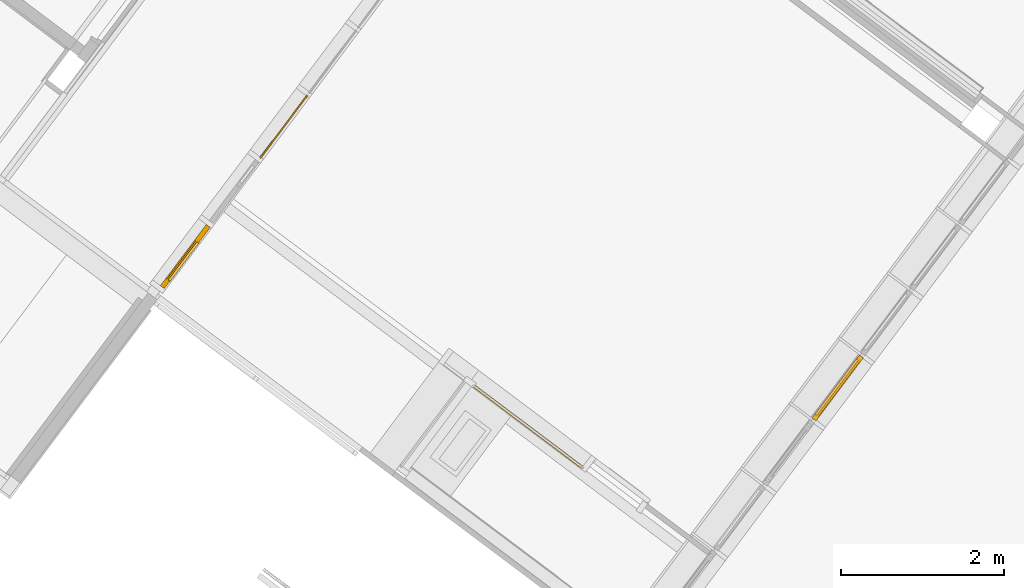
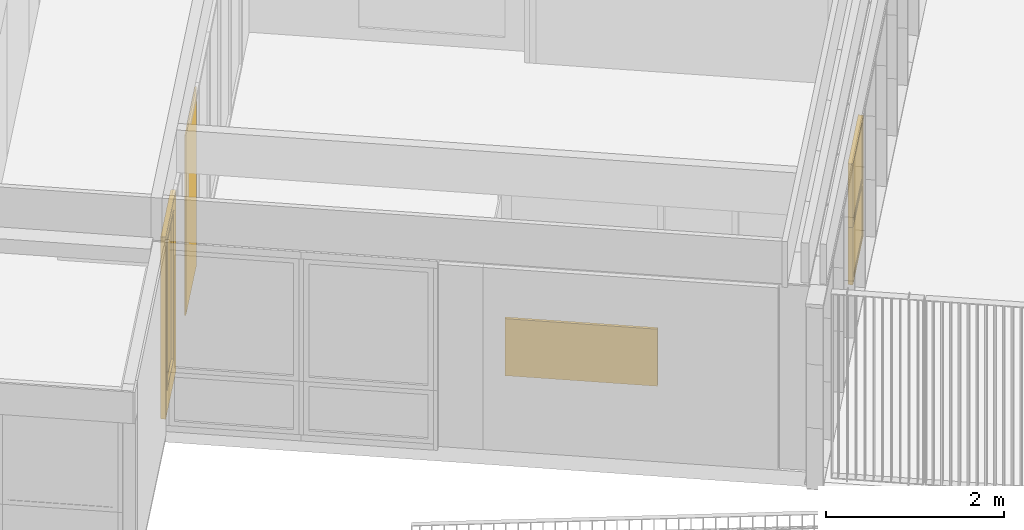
# One storey, part 150 of 243: 3 windows, 1 curtain wall, 1 door, 3 elements without a shape of their own.
"""IFC2X3 building model written with IfcOpenShell, lengths in metres."""

from ifc_helpers import new_model, entity, si_unit, converted_unit, derived_unit, direction, frame, frame_2d, origin, origin_2d_with_axis, place, context, subcontext, project, spatial, rectangle, extrude, faceted_brep, source, transform, mapped, material, material_list, layer, layer_set, layer_usage, type_object, type_shapes, element, aggregate, save


model = new_model("IFC2X3")

# Units and contexts
model_context = context("Model", 3, precision=1e-05, world=origin(), true_north=direction((6.123031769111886e-17, 1.0)))
body_context = subcontext(model_context, "Body", "Model", "MODEL_VIEW")
ifc_project = project(units=[si_unit("LENGTHUNIT", "METRE"), si_unit("AREAUNIT", "SQUARE_METRE"), si_unit("VOLUMEUNIT", "CUBIC_METRE"), converted_unit("PLANEANGLEUNIT", "DEGREE", entity("IfcRatioMeasure", 0.017453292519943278), si_unit("PLANEANGLEUNIT", "RADIAN"), dimensions=[0, 0, 0, 0, 0, 0, 0]), si_unit("MASSUNIT", "GRAM", prefix="KILO"), derived_unit("MASSDENSITYUNIT", [(si_unit("MASSUNIT", "GRAM", prefix="KILO"), 1), (si_unit("LENGTHUNIT", "METRE"), -3)]), derived_unit("IONCONCENTRATIONUNIT", [(si_unit("MASSUNIT", "GRAM", prefix="KILO"), 1), (si_unit("LENGTHUNIT", "METRE"), -3)]), derived_unit("MOMENTOFINERTIAUNIT", [(si_unit("LENGTHUNIT", "METRE"), 4)]), si_unit("TIMEUNIT", "SECOND"), si_unit("FREQUENCYUNIT", "HERTZ"), si_unit("THERMODYNAMICTEMPERATUREUNIT", "DEGREE_CELSIUS"), derived_unit("THERMALTRANSMITTANCEUNIT", [(si_unit("MASSUNIT", "GRAM", prefix="KILO"), 1), (si_unit("THERMODYNAMICTEMPERATUREUNIT", "KELVIN"), -1), (si_unit("TIMEUNIT", "SECOND"), -3)]), derived_unit("THERMALCONDUCTANCEUNIT", [(si_unit("MASSUNIT", "GRAM", prefix="KILO"), 1), (si_unit("THERMODYNAMICTEMPERATUREUNIT", "KELVIN"), -1), (si_unit("TIMEUNIT", "SECOND"), -3), (si_unit("LENGTHUNIT", "METRE"), 1)]), derived_unit("VOLUMETRICFLOWRATEUNIT", [(si_unit("LENGTHUNIT", "METRE"), 3), (si_unit("TIMEUNIT", "SECOND"), -1)]), derived_unit("MASSFLOWRATEUNIT", [(si_unit("MASSUNIT", "GRAM", prefix="KILO"), 1), (si_unit("TIMEUNIT", "SECOND"), -1)]), derived_unit("ROTATIONALFREQUENCYUNIT", [(si_unit("TIMEUNIT", "SECOND"), -1)]), si_unit("ELECTRICCURRENTUNIT", "AMPERE"), si_unit("ELECTRICVOLTAGEUNIT", "VOLT"), si_unit("POWERUNIT", "WATT"), si_unit("FORCEUNIT", "NEWTON", prefix="KILO"), si_unit("ILLUMINANCEUNIT", "LUX"), si_unit("LUMINOUSFLUXUNIT", "LUMEN"), si_unit("LUMINOUSINTENSITYUNIT", "CANDELA"), derived_unit("USERDEFINED", [(si_unit("MASSUNIT", "GRAM", prefix="KILO"), -1), (si_unit("LENGTHUNIT", "METRE"), -2), (si_unit("TIMEUNIT", "SECOND"), 3), (si_unit("LUMINOUSFLUXUNIT", "LUMEN"), 1)]), derived_unit("USERDEFINED", [(si_unit("MASSUNIT", "GRAM", prefix="KILO"), 1), (si_unit("TIMEUNIT", "SECOND"), -3), (si_unit("LENGTHUNIT", "METRE"), 3), (si_unit("ELECTRICCURRENTUNIT", "AMPERE"), -2)]), derived_unit("SOUNDPOWERUNIT", [(si_unit("MASSUNIT", "GRAM", prefix="KILO"), 1), (si_unit("TIMEUNIT", "SECOND"), -3), (si_unit("LENGTHUNIT", "METRE"), 2)]), derived_unit("SOUNDPRESSUREUNIT", [(si_unit("MASSUNIT", "GRAM", prefix="KILO"), 1), (si_unit("LENGTHUNIT", "METRE"), -1), (si_unit("TIMEUNIT", "SECOND"), -2)]), derived_unit("LINEARVELOCITYUNIT", [(si_unit("LENGTHUNIT", "METRE"), 1), (si_unit("TIMEUNIT", "SECOND"), -1)]), si_unit("PRESSUREUNIT", "PASCAL"), derived_unit("USERDEFINED", [(si_unit("MASSUNIT", "GRAM", prefix="KILO"), 1), (si_unit("LENGTHUNIT", "METRE"), -2), (si_unit("TIMEUNIT", "SECOND"), -2)]), derived_unit("LINEARFORCEUNIT", [(si_unit("MASSUNIT", "GRAM", prefix="KILO"), 1), (si_unit("TIMEUNIT", "SECOND"), -2)]), derived_unit("PLANARFORCEUNIT", [(si_unit("MASSUNIT", "GRAM", prefix="KILO"), 1), (si_unit("LENGTHUNIT", "METRE"), -1), (si_unit("TIMEUNIT", "SECOND"), -2)]), derived_unit("SPECIFICHEATCAPACITYUNIT", [(si_unit("THERMODYNAMICTEMPERATUREUNIT", "KELVIN"), -1), (si_unit("LENGTHUNIT", "METRE"), 2), (si_unit("TIMEUNIT", "SECOND"), -2)]), derived_unit("HEATINGVALUEUNIT", [(si_unit("LENGTHUNIT", "METRE"), 2), (si_unit("TIMEUNIT", "SECOND"), -2)]), derived_unit("VAPORPERMEABILITYUNIT", [(si_unit("LENGTHUNIT", "METRE"), -1), (si_unit("TIMEUNIT", "SECOND"), 1)]), derived_unit("DYNAMICVISCOSITYUNIT", [(si_unit("MASSUNIT", "GRAM", prefix="KILO"), 1), (si_unit("TIMEUNIT", "SECOND"), -1), (si_unit("LENGTHUNIT", "METRE"), -1)]), derived_unit("THERMALEXPANSIONCOEFFICIENTUNIT", [(si_unit("THERMODYNAMICTEMPERATUREUNIT", "KELVIN"), -1)]), derived_unit("MODULUSOFELASTICITYUNIT", [(si_unit("MASSUNIT", "GRAM", prefix="KILO"), 1), (si_unit("LENGTHUNIT", "METRE"), -1), (si_unit("TIMEUNIT", "SECOND"), -2)]), derived_unit("ISOTHERMALMOISTURECAPACITYUNIT", [(si_unit("LENGTHUNIT", "METRE"), 3), (si_unit("MASSUNIT", "GRAM", prefix="KILO"), -1)]), derived_unit("MOISTUREDIFFUSIVITYUNIT", [(si_unit("TIMEUNIT", "SECOND"), -1), (si_unit("LENGTHUNIT", "METRE"), 2)])], contexts=[model_context])

# Site, building, storey
site_placement = place(None, frame((0.0, 0.0, 235.0), z_axis=(0.0, 0.0, 1.0), x_axis=(-0.7996477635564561, 0.6004693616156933, 0.0)))
site = spatial("IfcSite", under=ifc_project, at=site_placement, Name="Default", CompositionType="ELEMENT")
building_placement = place(site_placement, origin())
building = spatial("IfcBuilding", under=site, at=building_placement, CompositionType="ELEMENT")
storey_placement = place(building_placement, origin())
storey = spatial("IfcBuildingStorey", under=building, at=storey_placement, Name="P0- Escola", CompositionType="ELEMENT", Elevation=0.0)

# Curtain wall, window, door
curtain_wall_type_1 = type_object("IfcCurtainWallType", Name="Muro cortina:MC- INT- a3", PredefinedType="NOTDEFINED")
curtain_wall_1_placement = place(storey_placement, origin())
curtain_wall_1 = element("IfcCurtainWall", 1, at=curtain_wall_1_placement, inside=storey, type_object=curtain_wall_type_1, Name="Muro cortina:MC- INT- a3", ObjectType="Muro cortina:MC- INT- a3")
ifc_material_1 = material(Name="_Vidre")
window_style_1 = type_object("IfcWindowStyle", Name="MC- Fusta- vidre fix:MC- Fusta- vidre fix", ConstructionType="NOTDEFINED", OperationType="NOTDEFINED", ParameterTakesPrecedence=False, Sizeable=False, material=ifc_material_1)
shared_shape_1 = source(origin(), body_context, "Body", "SweptSolid", [
    extrude(rectangle(XDim=0.015999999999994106, YDim=0.9699999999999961, at=origin_2d_with_axis()), frame((0.0, 0.0, 0.0), z_axis=(0.0, 0.0, 1.0), x_axis=(0.0, -1.0, 0.0)), (0.0, 0.0, 1.0), 2.475),
])
type_shapes(window_style_1, [shared_shape_1])
window_1_placement = place(curtain_wall_1_placement, frame((13.279147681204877, -20.970191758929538, 0.045000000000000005), z_axis=(0.0, 0.0, 1.0), x_axis=(0.0, -1.0, 0.0)))
window_1 = element("IfcWindow", 2, at=window_1_placement, type_object=window_style_1, material=ifc_material_1, Name="MC- Fusta- vidre fix:MC- Fusta- vidre fix", ObjectType="MC- Fusta- vidre fix:MC- Fusta- vidre fix", OverallHeight=2.475, OverallWidth=0.9699999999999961, context=body_context, shape_type="MappedRepresentation", body=[
    mapped(shared_shape_1, transform((0.0, 0.0, 0.0), scale=1.0)),
])
ifc_material_2 = material(Name="_Fusta massisa- T1")
ifc_material_list_1 = material_list([ifc_material_2, ifc_material_1])
door_style = type_object("IfcDoorStyle", Name="MC- Fusta- conjunt porta:MC- Fusta- conjunt Porta aules", ConstructionType="NOTDEFINED", OperationType="NOTDEFINED", ParameterTakesPrecedence=False, Sizeable=False, material=ifc_material_list_1)
shared_shape_2 = source(origin(), body_context, "Body", "Brep", [
    faceted_brep([(0.24500000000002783, -0.024999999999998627, 2.3799999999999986), (0.24500000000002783, -0.024999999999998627, 0.3299999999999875), (0.24500000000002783, 0.0050000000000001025, 0.3299999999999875), (0.24500000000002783, 0.0050000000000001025, 2.3799999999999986), (-0.3700000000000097, -0.024999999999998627, 0.3299999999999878), (-0.3700000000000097, 0.0050000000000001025, 0.3299999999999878), (-0.37000000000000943, -0.024999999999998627, 2.3799999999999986), (-0.37000000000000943, 0.0050000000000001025, 2.3799999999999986), (0.23000000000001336, 0.0050000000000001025, 2.3650000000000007), (-0.35499999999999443, 0.0050000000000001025, 2.3650000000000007), (-0.35499999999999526, 0.0050000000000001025, 0.3449999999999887), (0.23000000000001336, 0.0050000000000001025, 0.34499999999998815), (0.23000000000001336, -0.024999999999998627, 2.3650000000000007), (0.23000000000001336, -0.024999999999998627, 0.34499999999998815), (-0.35499999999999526, -0.024999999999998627, 0.3449999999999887), (-0.35499999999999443, -0.024999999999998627, 2.3650000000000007)], [[[0, 1, 2, 3]], [[1, 4, 5, 2]], [[4, 6, 7, 5]], [[8, 9, 10, 11], [3, 2, 5, 7]], [[12, 13, 14, 15], [0, 6, 4, 1]], [[13, 12, 8, 11]], [[14, 13, 11, 10]], [[15, 14, 10, 9]], [[6, 0, 3, 7]], [[12, 15, 9, 8]]], outer=[[True], [True], [True], [False, True], [False, True], [True], [True], [True], [True], [True]]),
    faceted_brep([(0.43999999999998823, 0.03999999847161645, 0.0), (0.43999999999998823, 0.0099999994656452, 0.0), (0.4550000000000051, 0.0099999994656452, 0.0), (0.4550000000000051, -0.01999999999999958, 0.0), (-0.45499999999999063, -0.019999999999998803, 0.0), (-0.45499999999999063, 0.009999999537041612, 0.0), (-0.43999999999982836, 0.009999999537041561, 0.0), (-0.43999999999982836, 0.039999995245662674, 0.0), (0.45500000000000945, -0.01999999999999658, 2.4899999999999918), (-0.45499999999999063, -0.019999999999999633, 2.4899999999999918), (0.24500000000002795, -0.019999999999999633, 0.3300000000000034), (-0.37000000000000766, -0.019999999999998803, 0.3300000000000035), (-0.37000000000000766, -0.01999999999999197, 2.3799999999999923), (0.24500000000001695, -0.019999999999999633, 2.3799999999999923), (0.45500000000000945, 0.0099999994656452, 2.4899999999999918), (-0.45499999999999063, 0.0099999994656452, 2.4899999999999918), (0.43999999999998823, 0.03999999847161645, 2.4749999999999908), (0.43999999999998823, 0.0099999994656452, 2.4749999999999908), (-0.43999999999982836, 0.0099999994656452, 2.4749999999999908), (-0.43999999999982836, 0.039999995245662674, 2.4749999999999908), (-0.3549999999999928, 0.03999999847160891, 0.3450000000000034), (0.2300000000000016, 0.03999999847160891, 0.3450000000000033), (0.2300000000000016, 0.03999999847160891, 2.364999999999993), (-0.3549999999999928, 0.03999999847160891, 2.364999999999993), (-0.3549999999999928, 0.025000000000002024, 0.3450000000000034), (0.2300000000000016, 0.025000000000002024, 0.3450000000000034), (0.2300000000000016, 0.024999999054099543, 2.364999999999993), (-0.3549999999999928, 0.03999999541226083, 2.364999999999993), (-0.3549999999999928, 0.024999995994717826, 2.364999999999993), (0.2300000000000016, 0.025000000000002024, 2.364999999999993), (-0.37000000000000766, 0.025000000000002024, 0.3300000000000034), (0.24500000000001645, 0.025000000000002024, 0.3300000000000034), (0.24500000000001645, 0.025000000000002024, 2.3799999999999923), (-0.37000000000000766, 0.025000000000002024, 2.3799999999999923), (0.24500000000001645, 0.024999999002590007, 0.3300000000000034), (-0.37000000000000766, 0.02499999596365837, 2.3799999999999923), (0.24500000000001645, 0.024999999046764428, 2.3799999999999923)], [[[0, 1, 2, 3, 4, 5, 6, 7]], [[8, 9, 4, 3], [10, 11, 12, 13]], [[8, 3, 2, 14]], [[15, 5, 4, 9]], [[16, 17, 1, 0]], [[14, 2, 1, 17, 18, 6, 5, 15]], [[18, 19, 7, 6]], [[16, 0, 7, 19], [20, 21, 22, 23]], [[21, 20, 24, 25]], [[21, 25, 26, 22]], [[24, 20, 27, 28]], [[25, 24, 28, 29], [30, 31, 32, 33]], [[11, 10, 31, 30]], [[34, 10, 13, 32]], [[11, 30, 35, 12]], [[9, 8, 14, 15]], [[17, 16, 19, 18]], [[23, 22, 29, 28]], [[13, 12, 33, 36]]], outer=[[True], [True, False], [True], [True], [True], [True], [True], [True, False], [True], [True], [True], [False, True], [True], [True], [True], [True], [True], [True], [True]]),
    faceted_brep([(-0.37000000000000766, 0.024999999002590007, 0.3300000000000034), (0.2450000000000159, 0.024999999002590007, 0.3300000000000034), (0.2450000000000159, 0.0050000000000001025, 0.3300000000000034), (-0.37000000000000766, 0.0050000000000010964, 0.3300000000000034), (-0.37000000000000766, 0.024999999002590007, 2.380000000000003), (0.2450000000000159, 0.024999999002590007, 2.380000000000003), (0.2450000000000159, 0.0050000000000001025, 2.380000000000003), (-0.37000000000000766, 0.0050000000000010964, 2.380000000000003)], [[[0, 1, 2, 3]], [[4, 5, 1, 0]], [[5, 6, 2, 1]], [[6, 7, 3, 2]], [[7, 4, 0, 3]], [[4, 7, 6, 5]]]),
    faceted_brep([(0.46500000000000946, -0.01999999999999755, 0.0), (0.4550000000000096, -0.01999999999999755, 0.0), (0.4550000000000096, 0.010000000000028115, 0.0), (0.44000000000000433, 0.010000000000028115, 0.0), (0.44000000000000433, 0.0400000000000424, 0.0), (0.46500000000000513, 0.0400000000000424, 0.0), (0.46500000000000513, 0.03600000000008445, 0.0), (0.469999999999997, 0.03600000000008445, 0.0), (0.469999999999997, -0.015999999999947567, 0.0), (0.46500000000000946, -0.015999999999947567, 0.0), (0.46500000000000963, -0.01999999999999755, 2.5000000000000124), (-0.46500000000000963, -0.01999999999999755, 2.5000000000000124), (-0.46500000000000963, -0.01999999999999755, 0.0), (-0.45500000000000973, -0.01999999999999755, 0.0), (-0.45500000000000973, -0.01999999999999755, 2.4900000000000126), (0.4550000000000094, -0.01999999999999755, 2.490000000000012), (0.4550000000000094, 0.010000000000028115, 2.490000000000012), (-0.45500000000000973, 0.010000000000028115, 2.4900000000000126), (-0.45500000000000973, 0.010000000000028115, 0.0), (-0.4400000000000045, 0.010000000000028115, 0.0), (-0.4400000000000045, 0.010000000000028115, 2.4750000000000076), (0.4400000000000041, 0.010000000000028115, 2.4750000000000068), (0.4400000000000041, 0.0400000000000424, 2.4750000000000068), (-0.4400000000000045, 0.0400000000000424, 2.4750000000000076), (-0.4400000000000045, 0.0400000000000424, 0.0), (-0.4650000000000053, 0.0400000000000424, 0.0), (-0.4650000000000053, 0.0400000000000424, 2.5000000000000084), (0.46500000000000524, 0.0400000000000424, 2.5000000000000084), (0.46500000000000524, 0.03600000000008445, 2.5000000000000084), (-0.4650000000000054, 0.03600000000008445, 2.5000000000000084), (-0.4650000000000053, 0.03600000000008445, 0.0), (-0.4699999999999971, 0.03600000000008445, 0.0), (-0.4699999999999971, 0.03600000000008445, 2.5050000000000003), (0.46999999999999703, 0.03600000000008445, 2.5050000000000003), (0.46999999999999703, -0.015999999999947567, 2.5050000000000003), (-0.46999999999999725, -0.015999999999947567, 2.5050000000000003), (-0.4699999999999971, -0.015999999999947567, 0.0), (-0.46500000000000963, -0.015999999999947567, 0.0), (-0.46500000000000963, -0.015999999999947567, 2.5000000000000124), (0.4650000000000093, -0.015999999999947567, 2.500000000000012)], [[[0, 1, 2, 3, 4, 5, 6, 7, 8, 9]], [[1, 0, 10, 11, 12, 13, 14, 15]], [[2, 1, 15, 16]], [[3, 2, 16, 17, 18, 19, 20, 21]], [[4, 3, 21, 22]], [[5, 4, 22, 23, 24, 25, 26, 27]], [[6, 5, 27, 28]], [[7, 6, 28, 29, 30, 31, 32, 33]], [[8, 7, 33, 34]], [[9, 8, 34, 35, 36, 37, 38, 39]], [[0, 9, 39, 10]], [[11, 38, 37, 12]], [[12, 37, 36, 31, 30, 25, 24, 19, 18, 13]], [[17, 14, 13, 18]], [[23, 20, 19, 24]], [[29, 26, 25, 30]], [[35, 32, 31, 36]], [[16, 15, 14, 17]], [[22, 21, 20, 23]], [[28, 27, 26, 29]], [[34, 33, 32, 35]], [[10, 39, 38, 11]]]),
])
type_shapes(door_style, [shared_shape_2])
door_placement = place(curtain_wall_1_placement, frame((13.279147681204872, -18.970191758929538, 0.0), z_axis=(0.0, 0.0, 1.0), x_axis=(0.0, -1.0, 0.0)))
door = element("IfcDoor", 3, at=door_placement, type_object=door_style, material=ifc_material_list_1, Name="MC- Fusta- conjunt porta:MC- Fusta- conjunt Porta aules", ObjectType="MC- Fusta- conjunt porta:MC- Fusta- conjunt Porta aules", OverallHeight=2.5050000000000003, OverallWidth=0.9399999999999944, context=body_context, shape_type="MappedRepresentation", body=[
    mapped(shared_shape_2, transform((0.0, 0.0, 0.0), scale=1.0)),
])
aggregate(curtain_wall_1, [window_1, door])

# Curtain walls
curtain_wall_type_2 = type_object("IfcCurtainWallType", Name="Muro cortina:MC- INT- k1", PredefinedType="NOTDEFINED")
curtain_wall_2_placement = place(storey_placement, origin())
curtain_wall_2 = element("IfcCurtainWall", 4, at=curtain_wall_2_placement, inside=storey, type_object=curtain_wall_type_2, Name="Muro cortina:MC- INT- k1", ObjectType="Muro cortina:MC- INT- k1")
ifc_material_3 = material(Name="_Fusta massisa- T1-  REV- PAV")
ifc_layer_1 = layer(ifc_material_3, 0.015)
ifc_material_4 = material(Name="_Genèric perfils, muntants, rastrells")
ifc_layer_2 = layer(ifc_material_4, 0.02)
ifc_layer_set = layer_set([ifc_layer_1, ifc_layer_2], Name="Muro básico:REV- Fusta- T1- 3,5 cm")
ifc_layer_usage = layer_usage(ifc_layer_set, "AXIS2", "NEGATIVE", 0.0175)
curtain_wall_type_3 = type_object("IfcCurtainWallType", Name="Muro básico:REV- Fusta- T1- 3,5 cm", PredefinedType="NOTDEFINED", material=ifc_layer_set)
curtain_wall_3_placement = place(storey_placement, frame((9.570147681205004, -19.82719175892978, 0.0), z_axis=(0.0, 0.0, 1.0), x_axis=(-1.0, 0.0, 0.0)))
curtain_wall_3 = element("IfcCurtainWall", 5, at=curtain_wall_3_placement, type_object=curtain_wall_type_3, material=ifc_layer_usage, Name="Muro básico:REV- Fusta- T1- 3,5 cm", ObjectType="Muro básico:REV- Fusta- T1- 3,5 cm", context=body_context, shape_type="SweptSolid", body=[
    extrude(rectangle(XDim=0.035000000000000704, YDim=1.731000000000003, at=frame_2d((-2.1649348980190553e-15, -1.0547118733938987e-15), x_axis=(1.0, 0.0))), frame((0.8654999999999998, 0.0, 0.0), z_axis=(0.0, 0.0, 1.0), x_axis=(0.0, 1.0, 0.0)), (0.0, 0.0, 1.0), 0.7849999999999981),
])
aggregate(curtain_wall_2, [curtain_wall_3])

# Curtain wall, windows
curtain_wall_type_4 = type_object("IfcCurtainWallType", Name="Muro cortina:MC- EXT- MC2", PredefinedType="NOTDEFINED")
curtain_wall_4_placement = place(storey_placement, origin())
curtain_wall_4 = element("IfcCurtainWall", 6, at=curtain_wall_4_placement, inside=storey, type_object=curtain_wall_type_4, Name="Muro cortina:MC- EXT- MC2", ObjectType="Muro cortina:MC- EXT- MC2")
ifc_material_5 = material(Name="_Alumini- T1- Perfil")
ifc_material_list_2 = material_list([ifc_material_1, ifc_material_5])
window_style_2 = type_object("IfcWindowStyle", Name="MC- Alu- Conjunt vidre fix- 62x60 cm:MC- Alu- Conjunt vidre fix- 62x60 cm", ConstructionType="NOTDEFINED", OperationType="NOTDEFINED", ParameterTakesPrecedence=False, Sizeable=False, material=ifc_material_list_2)
shared_shape_3 = source(origin(), body_context, "Body", "Brep", [
    faceted_brep([(0.4361932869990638, -0.007600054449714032, 0.048806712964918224), (0.4361932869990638, -0.03160022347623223, 0.048806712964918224), (-0.4361932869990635, -0.03160022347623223, 0.048806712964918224), (-0.4361932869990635, -0.007600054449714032, 0.048806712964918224), (0.4361932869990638, -0.007600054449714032, 0.7387000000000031), (-0.4361932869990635, -0.007600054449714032, 0.7387000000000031), (-0.4361932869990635, -0.03160022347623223, 0.7387000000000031), (0.4361932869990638, -0.03160022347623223, 0.7387000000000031)], [[[0, 1, 2, 3]], [[4, 0, 3, 5]], [[5, 3, 2, 6]], [[6, 2, 1, 7]], [[7, 1, 0, 4]], [[4, 5, 6, 7]]]),
    faceted_brep([(0.48499999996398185, -0.05999999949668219, 0.7877000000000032), (0.48499999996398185, -0.05999999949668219, 0.0), (0.48499999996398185, 0.0, 0.0), (0.48499999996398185, 0.0, 0.787700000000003), (-0.48499999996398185, 0.0, 0.7877000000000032), (-0.48499999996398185, 0.0, 0.0), (0.4221931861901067, 0.0, 0.7248931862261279), (-0.42219318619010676, 0.0, 0.724893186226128), (-0.4221931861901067, 0.0, 0.0628068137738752), (0.4221931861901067, 0.0, 0.06280681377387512), (-0.48499999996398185, -0.05999999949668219, 0.0), (-0.48499999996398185, -0.05999999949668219, 0.7877000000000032), (-0.42219603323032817, -0.05999999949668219, 0.7248960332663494), (0.42219603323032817, -0.05999999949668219, 0.7248960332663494), (0.42219603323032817, -0.05999999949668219, 0.0628039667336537), (-0.42219603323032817, -0.05999999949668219, 0.0628039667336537), (0.4221960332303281, -0.03160022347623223, 0.7248960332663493), (0.42219603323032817, -0.03160022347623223, 0.0628039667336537), (-0.42219603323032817, -0.03160022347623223, 0.06280396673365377), (-0.42219603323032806, -0.03160022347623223, 0.7248960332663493), (-0.43619328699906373, -0.03160022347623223, 0.738893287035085), (0.43619328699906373, -0.03160022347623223, 0.738893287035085), (0.43619328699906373, -0.03160022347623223, 0.048806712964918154), (-0.43619328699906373, -0.03160022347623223, 0.04880671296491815), (0.43619328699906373, -0.007600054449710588, 0.738893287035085), (0.43619328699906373, -0.007600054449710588, 0.04880671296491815), (-0.43619328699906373, -0.007600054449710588, 0.048806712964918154), (-0.43619328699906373, -0.007600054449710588, 0.738893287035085), (-0.42219318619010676, -0.007600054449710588, 0.724893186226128), (0.42219318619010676, -0.007600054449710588, 0.724893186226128), (0.42219318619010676, -0.007600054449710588, 0.06280681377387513), (-0.42219318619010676, -0.007600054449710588, 0.06280681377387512)], [[[0, 1, 2, 3]], [[4, 3, 2, 5], [6, 7, 8, 9]], [[1, 10, 5, 2]], [[0, 11, 10, 1], [12, 13, 14, 15]], [[16, 17, 14, 13]], [[17, 18, 15, 14]], [[16, 19, 18, 17], [20, 21, 22, 23]], [[24, 25, 22, 21]], [[25, 26, 23, 22]], [[24, 27, 26, 25], [28, 29, 30, 31]], [[6, 9, 30, 29]], [[9, 8, 31, 30]], [[10, 11, 4, 5]], [[18, 19, 12, 15]], [[26, 27, 20, 23]], [[8, 7, 28, 31]], [[11, 0, 3, 4]], [[19, 16, 13, 12]], [[27, 24, 21, 20]], [[7, 6, 29, 28]]], outer=[[True], [True, False], [True], [True, False], [True], [True], [False, True], [True], [True], [True, False], [True], [True], [True], [True], [True], [True], [True], [True], [True], [True]]),
])
type_shapes(window_style_2, [shared_shape_3])
window_2_placement = place(curtain_wall_4_placement, frame((5.885147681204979, -22.490191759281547, 0.03229999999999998), z_axis=(0.0, 0.0, 1.0), x_axis=(0.0, 1.0, 0.0)))
window_2 = element("IfcWindow", 7, at=window_2_placement, type_object=window_style_2, material=ifc_material_list_2, Name="MC- Alu- Conjunt vidre fix- 62x60 cm:MC- Alu- Conjunt vidre fix- 62x60 cm", ObjectType="MC- Alu- Conjunt vidre fix- 62x60 cm:MC- Alu- Conjunt vidre fix- 62x60 cm", OverallHeight=0.7877000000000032, OverallWidth=0.9699999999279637, context=body_context, shape_type="MappedRepresentation", body=[
    mapped(shared_shape_3, transform((0.0, 0.0, 0.0), scale=1.0)),
])
window_style_3 = type_object("IfcWindowStyle", Name="MC- Alu- Conjunt vidre fix- 62x60 cm:MC- Alu- Conjunt vidre fix- 62x60 cm", ConstructionType="NOTDEFINED", OperationType="NOTDEFINED", ParameterTakesPrecedence=False, Sizeable=False, material=ifc_material_list_2)
shared_shape_4 = source(origin(), body_context, "Body", "Brep", [
    faceted_brep([(0.4361932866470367, -0.007600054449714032, 0.048806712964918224), (0.4361932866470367, -0.03160022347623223, 0.048806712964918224), (-0.43619328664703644, -0.03160022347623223, 0.048806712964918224), (-0.43619328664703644, -0.007600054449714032, 0.048806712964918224), (0.4361932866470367, -0.007600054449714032, 0.8260000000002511), (-0.43619328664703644, -0.007600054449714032, 0.8260000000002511), (-0.43619328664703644, -0.03160022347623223, 0.8260000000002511), (0.4361932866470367, -0.03160022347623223, 0.8260000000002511)], [[[0, 1, 2, 3]], [[4, 0, 3, 5]], [[5, 3, 2, 6]], [[6, 2, 1, 7]], [[7, 1, 0, 4]], [[4, 5, 6, 7]]]),
    faceted_brep([(0.4849999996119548, -0.05999999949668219, 0.875000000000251), (0.4849999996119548, -0.05999999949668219, 0.0), (0.4849999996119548, 0.0, 0.0), (0.4849999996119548, 0.0, 0.8750000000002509), (-0.4849999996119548, 0.0, 0.875000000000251), (-0.4849999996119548, 0.0, 0.0), (0.4221931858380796, 0.0, 0.8121931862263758), (-0.4221931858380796, 0.0, 0.8121931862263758), (-0.4221931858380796, 0.0, 0.0628068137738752), (0.4221931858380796, 0.0, 0.06280681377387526), (-0.4849999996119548, -0.05999999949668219, 0.0), (-0.4849999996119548, -0.05999999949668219, 0.875000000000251), (-0.4221960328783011, -0.05999999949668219, 0.8121960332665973), (0.4221960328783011, -0.05999999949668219, 0.8121960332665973), (0.4221960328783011, -0.05999999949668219, 0.0628039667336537), (-0.4221960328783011, -0.05999999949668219, 0.0628039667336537), (0.422196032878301, -0.03160022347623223, 0.8121960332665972), (0.4221960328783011, -0.03160022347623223, 0.0628039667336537), (-0.4221960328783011, -0.03160022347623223, 0.06280396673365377), (-0.42219603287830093, -0.03160022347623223, 0.8121960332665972), (-0.4361932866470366, -0.03160022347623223, 0.8261932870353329), (0.4361932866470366, -0.03160022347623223, 0.8261932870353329), (0.4361932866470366, -0.03160022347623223, 0.048806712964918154), (-0.4361932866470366, -0.03160022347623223, 0.04880671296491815), (0.4361932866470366, -0.007600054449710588, 0.8261932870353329), (0.4361932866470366, -0.007600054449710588, 0.04880671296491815), (-0.4361932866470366, -0.007600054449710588, 0.048806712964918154), (-0.4361932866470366, -0.007600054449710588, 0.8261932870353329), (-0.42219318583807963, -0.007600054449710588, 0.8121931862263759), (0.42219318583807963, -0.007600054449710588, 0.8121931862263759), (0.42219318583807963, -0.007600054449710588, 0.06280681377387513), (-0.42219318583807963, -0.007600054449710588, 0.06280681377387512)], [[[0, 1, 2, 3]], [[4, 3, 2, 5], [6, 7, 8, 9]], [[1, 10, 5, 2]], [[0, 11, 10, 1], [12, 13, 14, 15]], [[16, 17, 14, 13]], [[17, 18, 15, 14]], [[16, 19, 18, 17], [20, 21, 22, 23]], [[24, 25, 22, 21]], [[25, 26, 23, 22]], [[24, 27, 26, 25], [28, 29, 30, 31]], [[6, 9, 30, 29]], [[9, 8, 31, 30]], [[10, 11, 4, 5]], [[18, 19, 12, 15]], [[26, 27, 20, 23]], [[8, 7, 28, 31]], [[11, 0, 3, 4]], [[19, 16, 13, 12]], [[27, 24, 21, 20]], [[7, 6, 29, 28]]], outer=[[True], [True, False], [True], [True, False], [True], [True], [False, True], [True], [True], [True, False], [True], [True], [True], [True], [True], [True], [True], [True], [True], [True]]),
])
type_shapes(window_style_3, [shared_shape_4])
window_3_placement = place(curtain_wall_4_placement, frame((5.885147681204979, -22.490191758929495, 0.8199999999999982), z_axis=(0.0, 0.0, 1.0), x_axis=(0.0, 1.0, 0.0)))
window_3 = element("IfcWindow", 8, at=window_3_placement, type_object=window_style_3, material=ifc_material_list_2, Name="MC- Alu- Conjunt vidre fix- 62x60 cm:MC- Alu- Conjunt vidre fix- 62x60 cm", ObjectType="MC- Alu- Conjunt vidre fix- 62x60 cm:MC- Alu- Conjunt vidre fix- 62x60 cm", OverallHeight=0.875000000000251, OverallWidth=0.9699999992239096, context=body_context, shape_type="MappedRepresentation", body=[
    mapped(shared_shape_4, transform((0.0, 0.0, 0.0), scale=1.0)),
])
aggregate(curtain_wall_4, [window_2, window_3])

save(model, "model.ifc")
